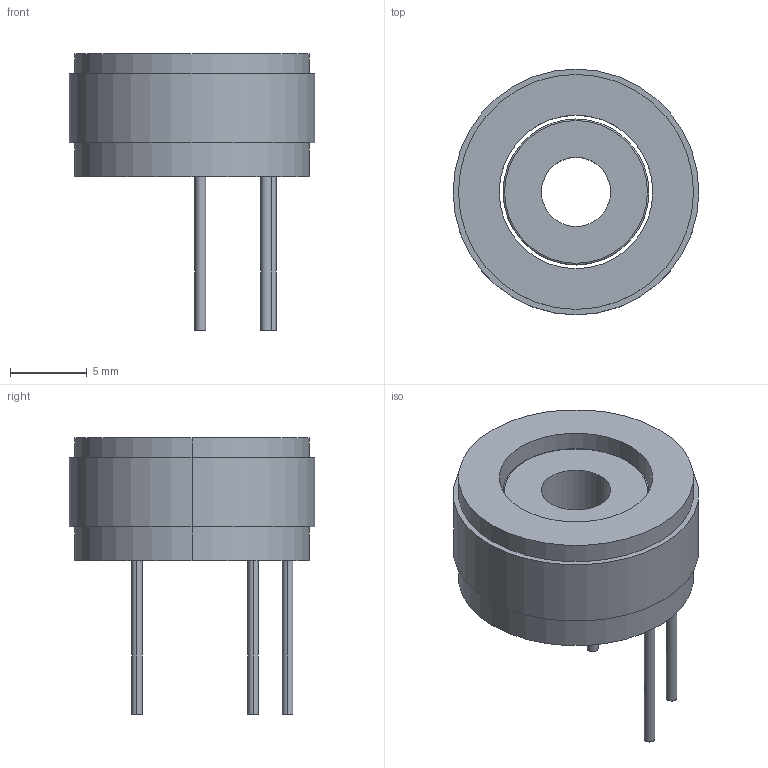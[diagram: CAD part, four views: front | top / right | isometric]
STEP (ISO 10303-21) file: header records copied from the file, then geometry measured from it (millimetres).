
FILE_DESCRIPTION (( 'STEP AP203' ), '1' );
FILE_NAME ('U1608 电机模型（20260715更新）.STEP', '2026-07-15T08:46:56', ( 'Windows User' ), ( 'P R C' ), 'SwSTEP 2.0', 'SolidWorks 2023', '' );
FILE_SCHEMA (( 'CONFIG_CONTROL_DESIGN' ));
Length unit declared in the file: millimetre
Products named in the file (1): U1608 电机模型（20260715更新）
Bounding box: 16 x 16 x 18 mm (x, y, z)
Volume: 1211.8 mm3; surface area: 1288.5 mm2
Topology: 2 solids, 2 shells, 31 faces, 62 edges, 40 vertices
Faces by surface type: cylinder 18, plane 9, torus 4
Entity records: 911 total; most frequent: DIRECTION 170, CARTESIAN_POINT 134, ORIENTED_EDGE 124, AXIS2_PLACEMENT_3D 76, EDGE_CURVE 62, CIRCLE 44, VERTEX_POINT 40, EDGE_LOOP 40
